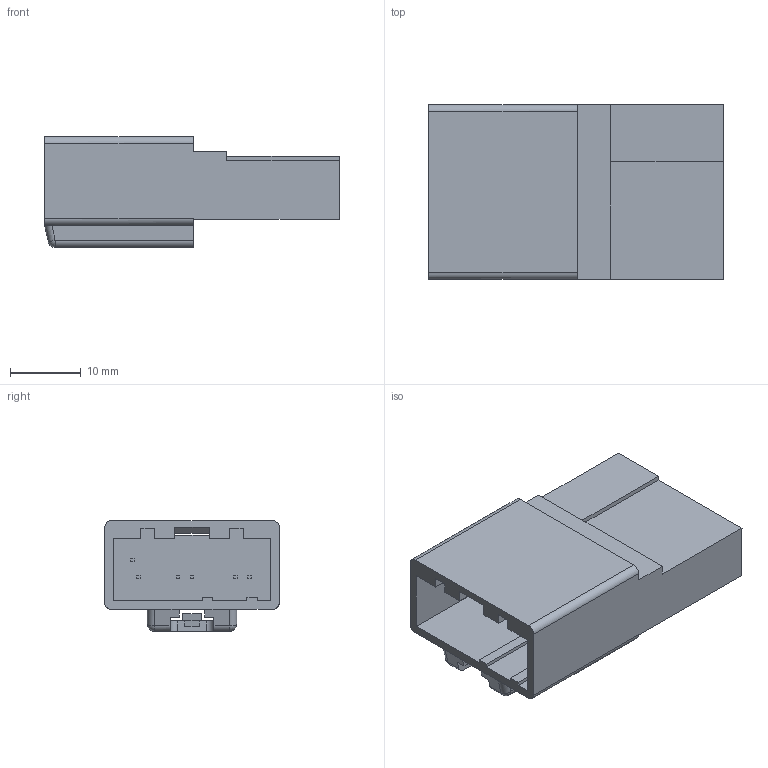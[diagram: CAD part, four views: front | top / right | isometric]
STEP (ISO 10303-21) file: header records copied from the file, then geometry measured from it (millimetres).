
FILE_DESCRIPTION(('CATIA V5 STEP','CAx-IF Rec.Pracs.--- Model Styling and Organization---1.5--- 2016-08-15','CAx-IF Rec.Pracs.---Supplemental Geometry---1.0---2011-11-01','CAx-IF Rec.Pracs.--- Composite Materials ---1.1---2010-07-15'),'2;1');
FILE_NAME('\\fss02.ad.sws.co.jp\fs100070\事務・購入\特命業務\特-35ｰ部品総合カタログメンテナンス\26年度\WEBカタログ用3D\260612_webカタログ新規登録用簡易3D\モデル保存場所\HFD-U2シリーズ\6099-0510.stp','2026-06-25T09:12:12+00:00',('none'),('none'),'CATIA Version 5-6 Release 2021 SP5 HF44','CATIA V5 STEP AP214 v2','none');
FILE_SCHEMA(('AUTOMOTIVE_DESIGN { 1 0 10303 214 1 1 1 1 }'));
Length unit declared in the file: millimetre
Products named in the file (1): 6099-0510
Bounding box: 41.6 x 24.65 x 15.65 mm (x, y, z)
Volume: 8049 mm3; surface area: 5267 mm2
Topology: 1 solids, 1 shells, 156 faces, 432 edges, 283 vertices
Faces by surface type: plane 142, cylinder 12, sphere 2
Entity records: 4784 total; most frequent: CARTESIAN_POINT 911, ORIENTED_EDGE 860, DIRECTION 676, EDGE_CURVE 430, VECTOR 402, LINE 402, VERTEX_POINT 283, EDGE_LOOP 167
